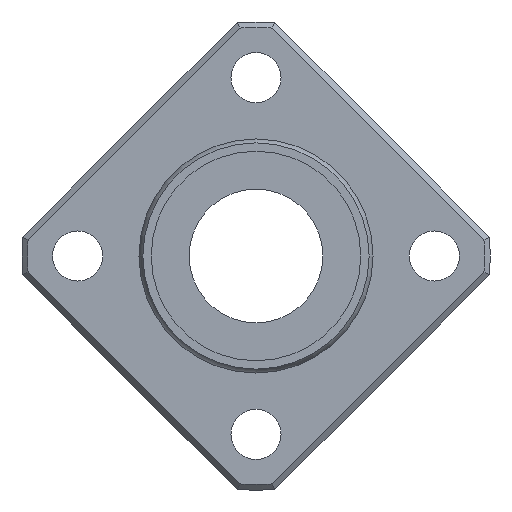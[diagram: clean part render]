
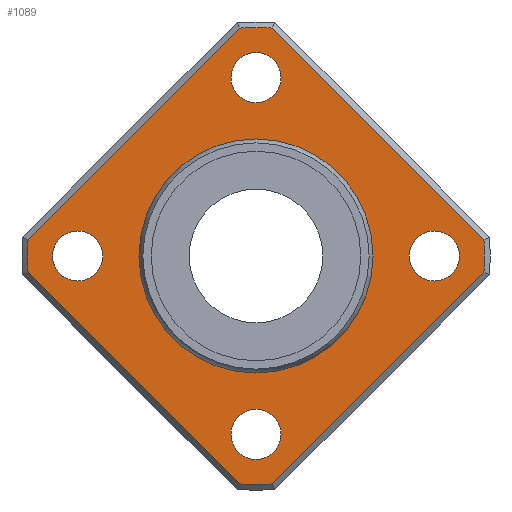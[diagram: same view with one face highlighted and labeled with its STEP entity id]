
A CAD part, left-side view. The second image highlights one B-rep face of the part: STEP entity #1089.
In plain terms, the highlighted planar face has unit normal (-1, 0, 0).
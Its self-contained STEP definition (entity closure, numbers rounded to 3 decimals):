
#665=CARTESIAN_POINT('',(-21.5,20.447,1.473));
#666=VERTEX_POINT('',#665);
#674=CARTESIAN_POINT('',(-21.5,1.473,20.447));
#675=VERTEX_POINT('',#674);
#676=CARTESIAN_POINT('',(-21.5,20.447,1.473));
#677=DIRECTION('',(0.0,-0.707,0.707));
#678=VECTOR('',#677,26.833);
#679=LINE('',#676,#678);
#680=EDGE_CURVE('',#666,#675,#679,.T.);
#707=CARTESIAN_POINT('',(-21.5,-1.473,20.447));
#708=VERTEX_POINT('',#707);
#709=CARTESIAN_POINT('',(-21.5,0.0,0.0));
#710=DIRECTION('',(1.0,0.0,0.0));
#711=DIRECTION('',(0.0,0.0,1.0));
#712=AXIS2_PLACEMENT_3D('',#709,#710,#711);
#713=CIRCLE('',#712,20.5);
#714=EDGE_CURVE('',#675,#708,#713,.T.);
#740=CARTESIAN_POINT('',(-21.5,-20.447,1.473));
#741=VERTEX_POINT('',#740);
#742=CARTESIAN_POINT('',(-21.5,-1.473,20.447));
#743=DIRECTION('',(0.0,-0.707,-0.707));
#744=VECTOR('',#743,26.833);
#745=LINE('',#742,#744);
#746=EDGE_CURVE('',#708,#741,#745,.T.);
#773=CARTESIAN_POINT('',(-21.5,-20.447,-1.473));
#774=VERTEX_POINT('',#773);
#775=CARTESIAN_POINT('',(-21.5,0.0,0.0));
#776=DIRECTION('',(1.0,0.0,0.0));
#777=DIRECTION('',(0.0,0.0,1.0));
#778=AXIS2_PLACEMENT_3D('',#775,#776,#777);
#779=CIRCLE('',#778,20.5);
#780=EDGE_CURVE('',#741,#774,#779,.T.);
#806=CARTESIAN_POINT('',(-21.5,-1.473,-20.447));
#807=VERTEX_POINT('',#806);
#808=CARTESIAN_POINT('',(-21.5,-20.447,-1.473));
#809=DIRECTION('',(0.0,0.707,-0.707));
#810=VECTOR('',#809,26.833);
#811=LINE('',#808,#810);
#812=EDGE_CURVE('',#774,#807,#811,.T.);
#839=CARTESIAN_POINT('',(-21.5,1.473,-20.447));
#840=VERTEX_POINT('',#839);
#841=CARTESIAN_POINT('',(-21.5,0.0,0.0));
#842=DIRECTION('',(1.0,0.0,0.0));
#843=DIRECTION('',(0.0,0.0,-1.0));
#844=AXIS2_PLACEMENT_3D('',#841,#842,#843);
#845=CIRCLE('',#844,20.5);
#846=EDGE_CURVE('',#807,#840,#845,.T.);
#872=CARTESIAN_POINT('',(-21.5,20.447,-1.473));
#873=VERTEX_POINT('',#872);
#874=CARTESIAN_POINT('',(-21.5,1.473,-20.447));
#875=DIRECTION('',(0.0,0.707,0.707));
#876=VECTOR('',#875,26.833);
#877=LINE('',#874,#876);
#878=EDGE_CURVE('',#840,#873,#877,.T.);
#903=CARTESIAN_POINT('',(-21.5,0.0,0.0));
#904=DIRECTION('',(1.0,0.0,0.0));
#905=DIRECTION('',(0.0,0.0,1.0));
#906=AXIS2_PLACEMENT_3D('',#903,#904,#905);
#907=CIRCLE('',#906,20.5);
#908=EDGE_CURVE('',#873,#666,#907,.T.);
#1019=CARTESIAN_POINT('',(-21.5,0.0,15.643));
#1020=DIRECTION('',(-1.0,0.0,0.0));
#1021=DIRECTION('',(0.0,0.0,1.0));
#1022=AXIS2_PLACEMENT_3D('',#1019,#1020,#1021);
#1023=PLANE('',#1022);
#1024=ORIENTED_EDGE('',*,*,#680,.F.);
#1025=ORIENTED_EDGE('',*,*,#908,.F.);
#1026=ORIENTED_EDGE('',*,*,#878,.F.);
#1027=ORIENTED_EDGE('',*,*,#846,.F.);
#1028=ORIENTED_EDGE('',*,*,#812,.F.);
#1029=ORIENTED_EDGE('',*,*,#780,.F.);
#1030=ORIENTED_EDGE('',*,*,#746,.F.);
#1031=ORIENTED_EDGE('',*,*,#714,.F.);
#1032=EDGE_LOOP('',(#1024,#1025,#1026,#1027,#1028,#1029,#1030,#1031));
#1033=FACE_OUTER_BOUND('',#1032,.T.);
#1034=CARTESIAN_POINT('',(-21.5,0.0,10.286));
#1035=VERTEX_POINT('',#1034);
#1036=CARTESIAN_POINT('',(-21.5,0.0,0.0));
#1037=DIRECTION('',(-1.0,0.0,0.0));
#1038=DIRECTION('',(0.0,0.0,1.0));
#1039=AXIS2_PLACEMENT_3D('',#1036,#1037,#1038);
#1040=CIRCLE('',#1039,10.286);
#1041=EDGE_CURVE('',#1035,#1035,#1040,.T.);
#1042=ORIENTED_EDGE('',*,*,#1041,.F.);
#1043=EDGE_LOOP('',(#1042));
#1044=FACE_BOUND('',#1043,.T.);
#1045=CARTESIAN_POINT('',(-21.5,13.75,0.));
#1046=VERTEX_POINT('',#1045);
#1047=CARTESIAN_POINT('',(-21.5,16.0,0.));
#1048=DIRECTION('',(1.0,0.0,0.0));
#1049=DIRECTION('',(0.0,1.0,0.0));
#1050=AXIS2_PLACEMENT_3D('',#1047,#1048,#1049);
#1051=CIRCLE('',#1050,2.25);
#1052=EDGE_CURVE('',#1046,#1046,#1051,.T.);
#1053=ORIENTED_EDGE('',*,*,#1052,.T.);
#1054=EDGE_LOOP('',(#1053));
#1055=FACE_BOUND('',#1054,.T.);
#1056=CARTESIAN_POINT('',(-21.5,-18.25,0.));
#1057=VERTEX_POINT('',#1056);
#1058=CARTESIAN_POINT('',(-21.5,-16.0,0.0));
#1059=DIRECTION('',(1.0,0.0,0.0));
#1060=DIRECTION('',(0.0,1.0,0.0));
#1061=AXIS2_PLACEMENT_3D('',#1058,#1059,#1060);
#1062=CIRCLE('',#1061,2.25);
#1063=EDGE_CURVE('',#1057,#1057,#1062,.T.);
#1064=ORIENTED_EDGE('',*,*,#1063,.T.);
#1065=EDGE_LOOP('',(#1064));
#1066=FACE_BOUND('',#1065,.T.);
#1067=CARTESIAN_POINT('',(-21.5,-2.25,16.0));
#1068=VERTEX_POINT('',#1067);
#1069=CARTESIAN_POINT('',(-21.5,0.,16.0));
#1070=DIRECTION('',(1.0,0.0,0.0));
#1071=DIRECTION('',(0.0,1.0,0.0));
#1072=AXIS2_PLACEMENT_3D('',#1069,#1070,#1071);
#1073=CIRCLE('',#1072,2.25);
#1074=EDGE_CURVE('',#1068,#1068,#1073,.T.);
#1075=ORIENTED_EDGE('',*,*,#1074,.T.);
#1076=EDGE_LOOP('',(#1075));
#1077=FACE_BOUND('',#1076,.T.);
#1078=CARTESIAN_POINT('',(-21.5,-2.25,-16.0));
#1079=VERTEX_POINT('',#1078);
#1080=CARTESIAN_POINT('',(-21.5,0.,-16.0));
#1081=DIRECTION('',(1.0,0.0,0.0));
#1082=DIRECTION('',(0.0,1.0,0.0));
#1083=AXIS2_PLACEMENT_3D('',#1080,#1081,#1082);
#1084=CIRCLE('',#1083,2.25);
#1085=EDGE_CURVE('',#1079,#1079,#1084,.T.);
#1086=ORIENTED_EDGE('',*,*,#1085,.T.);
#1087=EDGE_LOOP('',(#1086));
#1088=FACE_BOUND('',#1087,.T.);
#1089=ADVANCED_FACE('',(#1033,#1044,#1055,#1066,#1077,#1088),#1023,.T.);
